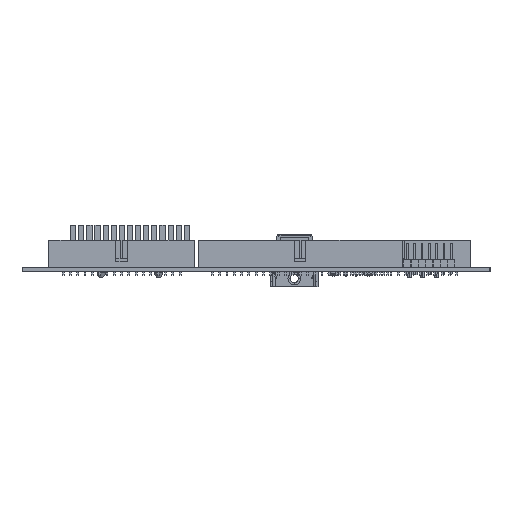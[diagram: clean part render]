
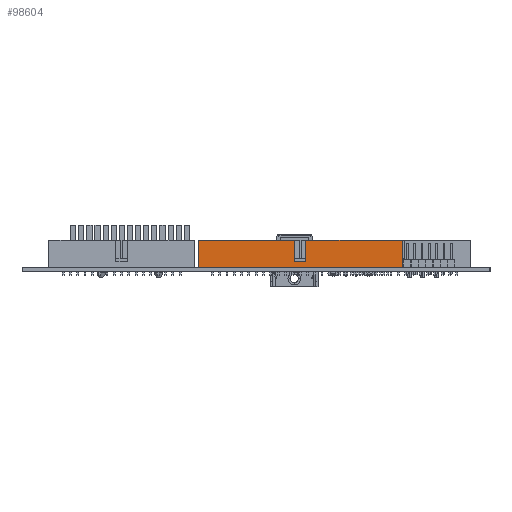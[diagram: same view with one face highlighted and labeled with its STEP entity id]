
A CAD part, left-side view. The second image highlights one B-rep face of the part: STEP entity #98604.
In plain terms, the highlighted planar face has unit normal (-1, 0, 0).
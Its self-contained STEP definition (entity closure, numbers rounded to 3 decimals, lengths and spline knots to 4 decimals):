
#10497=DIRECTION('',(0.,-1.,0.));
#10498=VECTOR('',#10497,2.79);
#10499=CARTESIAN_POINT('',(-3.105,0.792,0.062));
#10500=LINE('',#10499,#10498);
#27629=DIRECTION('',(0.,0.,1.));
#27630=VECTOR('',#27629,0.37);
#27631=CARTESIAN_POINT('',(-3.105,-1.998,0.062));
#27632=LINE('',#27631,#27630);
#27633=DIRECTION('',(0.,0.,1.));
#27634=VECTOR('',#27633,0.37);
#27635=CARTESIAN_POINT('',(-3.105,0.792,0.062));
#27636=LINE('',#27635,#27634);
#27637=DIRECTION('',(0.,0.,-1.));
#27638=VECTOR('',#27637,0.29);
#27639=CARTESIAN_POINT('',(-3.105,-0.523,0.432));
#27640=LINE('',#27639,#27638);
#27641=DIRECTION('',(0.,-1.,0.));
#27642=VECTOR('',#27641,0.16);
#27643=CARTESIAN_POINT('',(-3.105,-0.523,0.142));
#27644=LINE('',#27643,#27642);
#27645=DIRECTION('',(0.,0.,-1.));
#27646=VECTOR('',#27645,0.29);
#27647=CARTESIAN_POINT('',(-3.105,-0.683,0.432));
#27648=LINE('',#27647,#27646);
#27661=DIRECTION('',(0.,-1.,0.));
#27662=VECTOR('',#27661,1.315);
#27663=CARTESIAN_POINT('',(-3.105,0.792,0.432));
#27664=LINE('',#27663,#27662);
#27677=DIRECTION('',(0.,-1.,0.));
#27678=VECTOR('',#27677,1.315);
#27679=CARTESIAN_POINT('',(-3.105,-0.683,0.432));
#27680=LINE('',#27679,#27678);
#57685=CARTESIAN_POINT('',(-3.105,-1.998,0.432));
#57687=VERTEX_POINT('',#57685);
#57691=CARTESIAN_POINT('',(-3.105,0.792,0.432));
#57692=VERTEX_POINT('',#57691);
#57713=CARTESIAN_POINT('',(-3.105,-0.523,0.432));
#57715=VERTEX_POINT('',#57713);
#57717=CARTESIAN_POINT('',(-3.105,-0.683,0.432));
#57719=VERTEX_POINT('',#57717);
#57721=CARTESIAN_POINT('',(-3.105,-0.523,0.142));
#57722=VERTEX_POINT('',#57721);
#57723=CARTESIAN_POINT('',(-3.105,-0.683,0.142));
#57724=VERTEX_POINT('',#57723);
#60133=CARTESIAN_POINT('',(-3.105,-1.998,0.062));
#60135=VERTEX_POINT('',#60133);
#60139=CARTESIAN_POINT('',(-3.105,0.792,0.062));
#60140=VERTEX_POINT('',#60139);
#98583=CARTESIAN_POINT('',(-3.105,0.792,0.062));
#98584=DIRECTION('',(-1.,0.,0.));
#98585=DIRECTION('',(0.,-1.,0.));
#98586=AXIS2_PLACEMENT_3D('',#98583,#98584,#98585);
#98587=PLANE('',#98586);
#98588=ORIENTED_EDGE('',*,*,#71369,.F.);
#98590=ORIENTED_EDGE('',*,*,#98589,.T.);
#98592=ORIENTED_EDGE('',*,*,#98591,.T.);
#98594=ORIENTED_EDGE('',*,*,#98593,.T.);
#98596=ORIENTED_EDGE('',*,*,#98595,.T.);
#98598=ORIENTED_EDGE('',*,*,#98597,.F.);
#98600=ORIENTED_EDGE('',*,*,#98599,.T.);
#98601=ORIENTED_EDGE('',*,*,#98574,.F.);
#98602=EDGE_LOOP('',(#98588,#98590,#98592,#98594,#98596,#98598,#98600,#98601));
#98603=FACE_OUTER_BOUND('',#98602,.F.);
#98604=ADVANCED_FACE('',(#98603),#98587,.T.);
#71369=EDGE_CURVE('',#60140,#60135,#10500,.T.);
#98574=EDGE_CURVE('',#60135,#57687,#27632,.T.);
#98589=EDGE_CURVE('',#60140,#57692,#27636,.T.);
#98591=EDGE_CURVE('',#57692,#57715,#27664,.T.);
#98593=EDGE_CURVE('',#57715,#57722,#27640,.T.);
#98595=EDGE_CURVE('',#57722,#57724,#27644,.T.);
#98597=EDGE_CURVE('',#57719,#57724,#27648,.T.);
#98599=EDGE_CURVE('',#57719,#57687,#27680,.T.);
